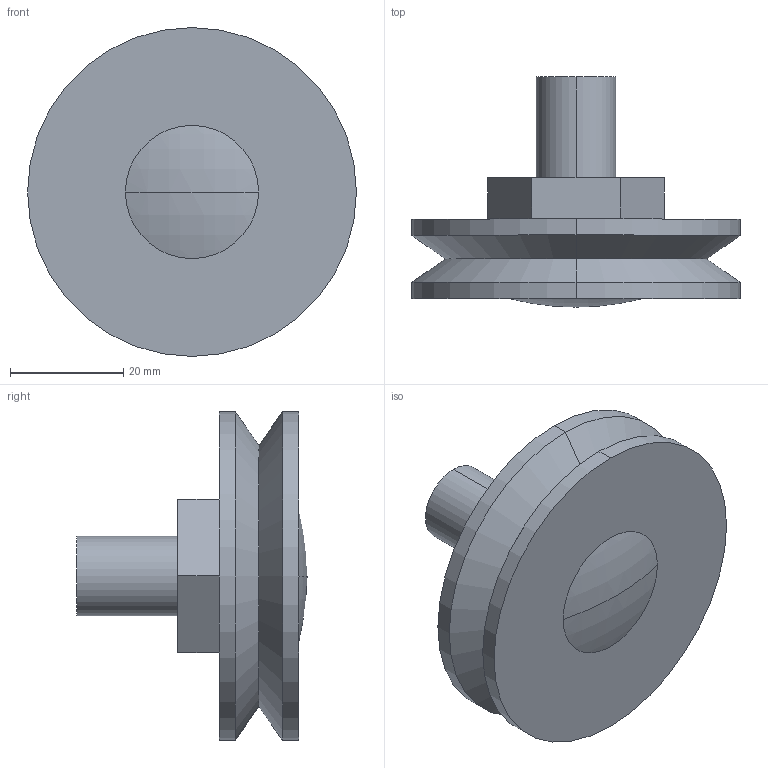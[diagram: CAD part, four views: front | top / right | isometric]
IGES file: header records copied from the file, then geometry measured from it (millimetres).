
Start section: 3D InterOp IGES (v. 2019 1.0.2), Spatial Corp. Copyright (c) 1999-2017.
Global section: file name: GBHJ 580 C.igs; native system: Spatial Corp.; preprocessor: 3D InterOp GENERIC/IGES 3.0; author: Noname; organization: Noname; date: 20220628.170608; units: millimetre
Bounding box: 58 x 40.6 x 58 mm (x, y, z)
Surface area: 10166.1 mm2 (no closed solid volume)
Topology: 0 solids, 0 shells, 22 faces, 92 edges, 92 vertices
Faces by surface type: revolution 12, extrusion 10
